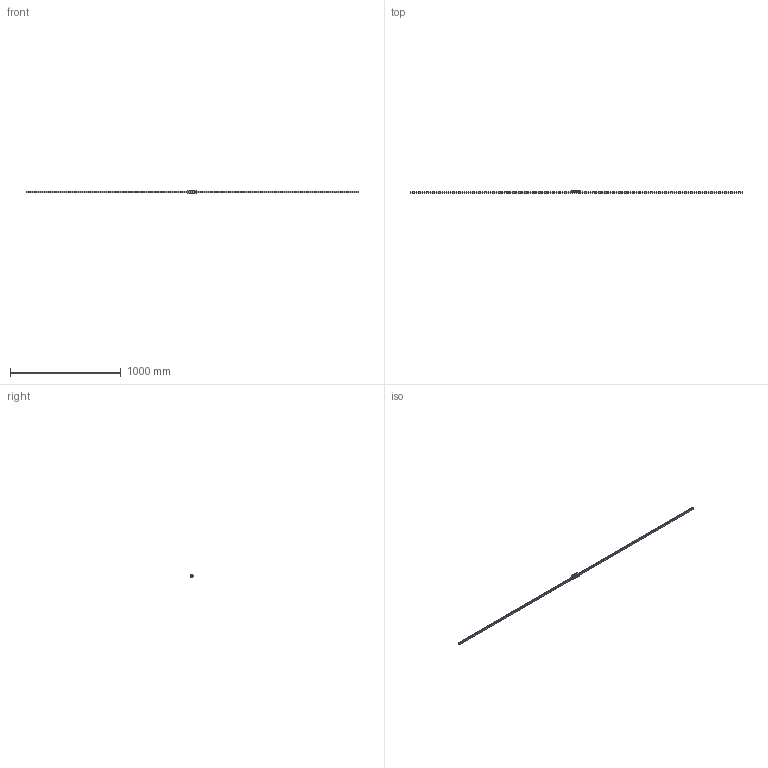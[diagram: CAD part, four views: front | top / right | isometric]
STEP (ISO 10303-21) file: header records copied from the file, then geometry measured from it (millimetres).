
FILE_DESCRIPTION(/* description */ ('STEP AP214'),/* implementation_level */ '2;1');
FILE_NAME(/* name */ 'HDR15LV1SS-3000L_G30_0_PB107_1462-55_0_0_01',/* time_stamp */ '2023-06-30T13:03:32+02:00',/* author */ ('License CC BY-ND 4.0'),/* organization */ ('CADENAS'),/* preprocessor_version */ 'ST-DEVELOPER v19.3',/* originating_system */ 'PARTsolutions',/* authorisation */ ' ');
FILE_SCHEMA (('AUTOMOTIVE_DESIGN {1 0 10303 214 3 1 1}'));
Length unit declared in the file: millimetre
Products named in the file (4): HDR15LV1SS-3000L_G30_0_PB107_1462-55_0_0_01; hsr_ftht_PB107_grease_nipple_joint; HDR15LVSSPB1071 Slider; HDR15LV1300030 Rail
Assembly tree (3 placements, depth 2):
  HDR15LV1SS-3000L_G30_0_PB107_1462-55_0_0_01
    hsr_ftht_PB107_grease_nipple_joint
    HDR15LVSSPB1071 Slider
    HDR15LV1300030 Rail
Bounding box: 3000 x 24 x 34 mm (x, y, z)
Volume: 614727.8 mm3; surface area: 220159.8 mm2
Topology: 3 solids, 3 shells, 335 faces, 796 edges, 524 vertices
Faces by surface type: cylinder 169, plane 153, cone 12, sphere 1
Full cylindrical faces by diameter (mm): 2.9 x4, 3 x1, 3.242 x6, 3.5 x3, 4.5 x51, 7.5 x50
Entity records: 9387 total; most frequent: DIRECTION 1682, CARTESIAN_POINT 1521, ORIENTED_EDGE 1320, AXIS2_PLACEMENT_3D 683, EDGE_CURVE 660, FACE_BOUND 626, EDGE_LOOP 620, VERTEX_POINT 522
